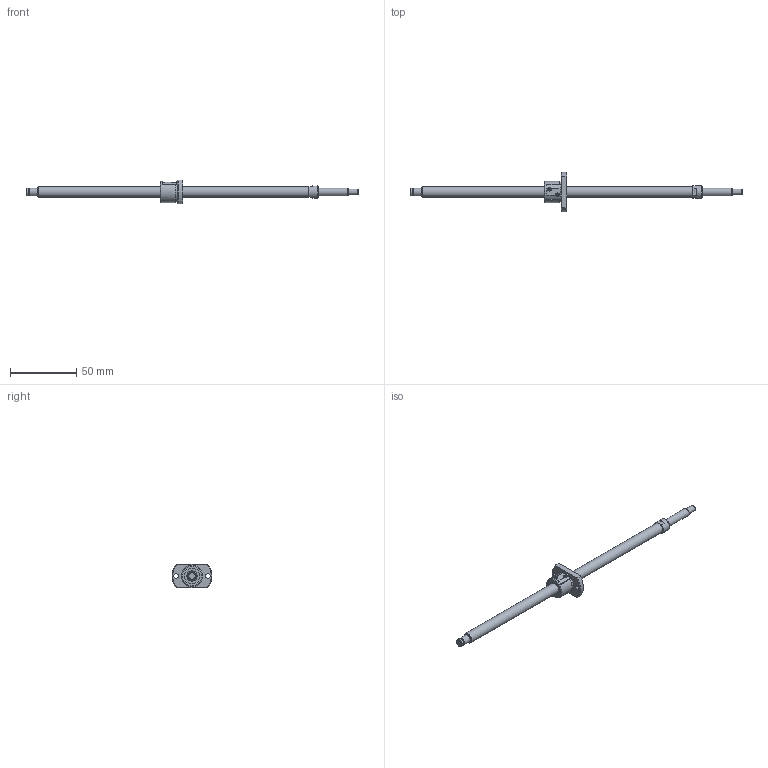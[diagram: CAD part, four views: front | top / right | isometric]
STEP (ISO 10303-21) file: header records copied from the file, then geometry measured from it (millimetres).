
FILE_DESCRIPTION(/* description */ ('STEP AP214'),/* implementation_level */ '2;1');
FILE_NAME(/* name */ 'SG0801-201R250C3B0X(92)',/* time_stamp */ '2026-07-21T16:43:19+02:00',/* author */ ('License CC BY-ND 4.0'),/* organization */ ('CADENAS'),/* preprocessor_version */ 'ST-DEVELOPER v20',/* originating_system */ 'PARTsolutions',/* authorisation */ ' ');
FILE_SCHEMA (('AUTOMOTIVE_DESIGN {1 0 10303 214 3 1 1}'));
Length unit declared in the file: millimetre
Products named in the file (3): SG0801-201R250C3B0X(92); SG0801-201R250C3B_shaft; SG0801_nut
Assembly tree (2 placements, depth 2):
  SG0801-201R250C3B0X(92)
    SG0801-201R250C3B_shaft
    SG0801_nut
Bounding box: 250 x 30 x 18 mm (x, y, z)
Volume: 15223.4 mm3; surface area: 8568 mm2
Topology: 2 solids, 2 shells, 81 faces, 193 edges, 126 vertices
Faces by surface type: plane 38, cylinder 28, cone 14, torus 1
Full cylindrical faces by diameter (mm): 3.4 x2, 4.5 x1, 5.7 x1, 6 x3, 8 x2, 9.5 x1, 12 x2, 15.6 x1, 16 x1
Entity records: 2263 total; most frequent: CARTESIAN_POINT 426, DIRECTION 382, ORIENTED_EDGE 318, AXIS2_PLACEMENT_3D 161, EDGE_CURVE 159, EDGE_LOOP 122, FACE_BOUND 122, VERTEX_POINT 117
